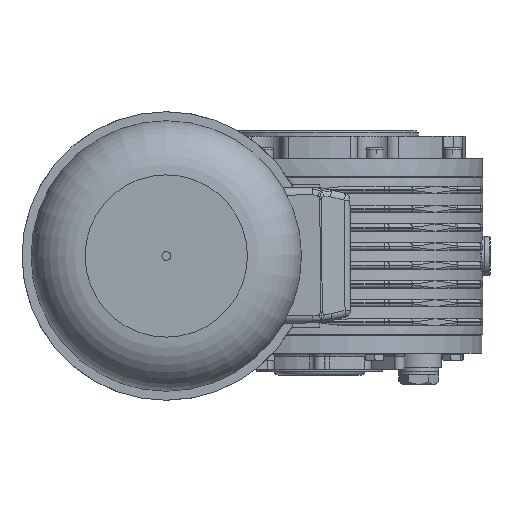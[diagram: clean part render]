
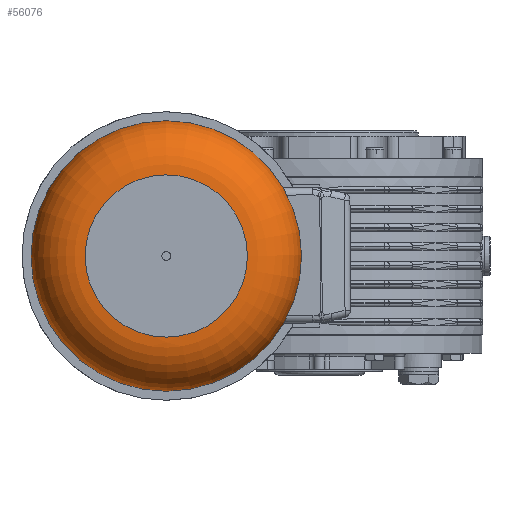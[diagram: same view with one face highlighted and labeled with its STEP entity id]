
A CAD part, left-side view. The second image highlights one B-rep face of the part: STEP entity #56076.
In plain terms, the highlighted toroidal (fillet/blend) face has major radius 45 mm and minor radius 30 mm.
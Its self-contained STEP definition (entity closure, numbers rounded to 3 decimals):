
#56049=CARTESIAN_POINT('',(314.0,0.0,0.0));
#56050=DIRECTION('',(1.0,0.0,0.0));
#56051=DIRECTION('',(0.0,0.0,-1.0));
#56052=AXIS2_PLACEMENT_3D('',#56049,#56050,#56051);
#56053=TOROIDAL_SURFACE('',#56052,45.,30.0);
#56054=CARTESIAN_POINT('',(344.0,45.,0.0));
#56055=VERTEX_POINT('',#56054);
#56056=CARTESIAN_POINT('',(344.0,0.0,0.0));
#56057=DIRECTION('',(1.0,0.0,0.0));
#56058=DIRECTION('',(0.0,1.0,0.0));
#56059=AXIS2_PLACEMENT_3D('',#56056,#56057,#56058);
#56060=CIRCLE('',#56059,45.);
#56061=EDGE_CURVE('',#56055,#56055,#56060,.T.);
#56062=ORIENTED_EDGE('',*,*,#56061,.F.);
#56063=EDGE_LOOP('',(#56062));
#56064=FACE_OUTER_BOUND('',#56063,.T.);
#56065=CARTESIAN_POINT('',(314.0,75.,0.0));
#56066=VERTEX_POINT('',#56065);
#56067=CARTESIAN_POINT('',(314.0,0.0,0.0));
#56068=DIRECTION('',(1.0,0.0,0.0));
#56069=DIRECTION('',(0.0,1.0,0.0));
#56070=AXIS2_PLACEMENT_3D('',#56067,#56068,#56069);
#56071=CIRCLE('',#56070,75.);
#56072=EDGE_CURVE('',#56066,#56066,#56071,.T.);
#56073=ORIENTED_EDGE('',*,*,#56072,.T.);
#56074=EDGE_LOOP('',(#56073));
#56075=FACE_BOUND('',#56074,.T.);
#56076=ADVANCED_FACE('',(#56064,#56075),#56053,.T.);
